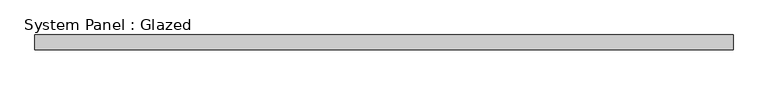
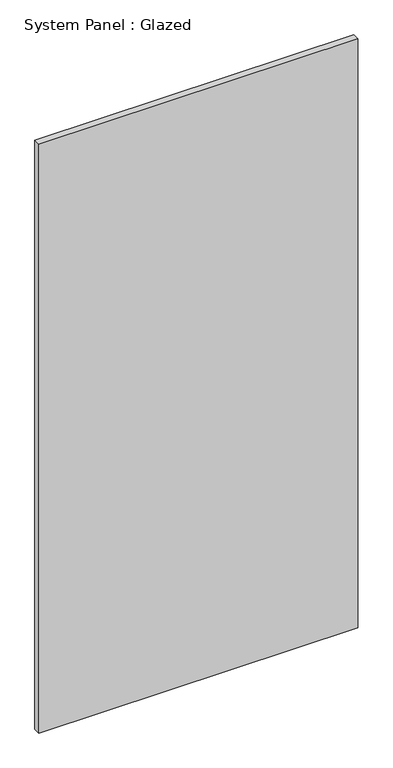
"""IFC4 building model written with IfcOpenShell, lengths in millimetres: plate geometry, System Panel : Glazed."""

import ifcopenshell
import ifcopenshell.guid

model = None  # the IFC model being written
_history = None  # IfcOwnerHistory: only IFC2X3 demands one
_inside = {}  # id of a spatial element -> (the spatial element, [elements in it])
_under = {}  # id of a project, library or spatial element -> (it, [spatial elements below it])
_declared = {}  # id of a project -> (the project, [libraries it declares])
_typed = {}  # id of a type object -> (the type object, [elements of that type])
_made_of = {}  # id of a material, layer set ... -> (it, [elements and type objects made of it])


def new_model(schema):
    """Start an empty IFC model of exactly this schema.

    Asked for "IFC4X3", IfcOpenShell would pick the latest addendum, in which some entities
    have other attributes; the version numbers below select the first issue.
    IFC2X3 requires an IfcOwnerHistory on every rooted entity: one is made here for all.
    """
    global model, _history
    if schema == "IFC4X3":
        model = ifcopenshell.file(schema_version=(4, 3, 0, 0))
    else:
        model = ifcopenshell.file(schema=schema)
    _inside.clear()
    _under.clear()
    _declared.clear()
    _typed.clear()
    _made_of.clear()
    _history = None
    if model.schema == "IFC2X3":
        org = make("IfcOrganization", Name="unknown")
        user = make(
            "IfcPersonAndOrganization",
            ThePerson=make("IfcPerson", FamilyName="unknown"),
            TheOrganization=org,
        )
        app = make(
            "IfcApplication",
            ApplicationDeveloper=org,
            Version="unknown",
            ApplicationFullName="unknown",
            ApplicationIdentifier="unknown",
        )
        _history = make(
            "IfcOwnerHistory",
            OwningUser=user,
            OwningApplication=app,
            ChangeAction="ADDED",
            CreationDate=0,
        )
    return model


def make(cls, **values):
    """One entity of the class cls with the attributes given. An attribute that is None is left unset."""
    return model.create_entity(
        cls, **{name: value for name, value in values.items() if value is not None}
    )


def rooted(cls, **values):
    """An entity with a GlobalId (a new one), such as an element, a storey or a relation."""
    return make(cls, GlobalId=ifcopenshell.guid.new(), OwnerHistory=_history, **values)


def si_unit(unit_type, name, prefix=None):
    """IfcSIUnit, for example si_unit("LENGTHUNIT", "METRE", prefix="MILLI")."""
    return make("IfcSIUnit", UnitType=unit_type, Prefix=prefix, Name=name)


def assignment(units):
    """IfcUnitAssignment: the units of a project."""
    return None if units is None else make("IfcUnitAssignment", Units=units)


def point(xyz):
    """IfcCartesianPoint."""
    return None if xyz is None else make("IfcCartesianPoint", Coordinates=xyz)


def direction(xyz):
    """IfcDirection."""
    return None if xyz is None else make("IfcDirection", DirectionRatios=xyz)


def frame(location, z_axis=None, x_axis=None):
    """IfcAxis2Placement3D, a coordinate frame: its origin and axes. An axis left out is left unset."""
    return make(
        "IfcAxis2Placement3D",
        Location=point(location),
        Axis=direction(z_axis),
        RefDirection=direction(x_axis),
    )


def origin():
    """The frame at (0, 0, 0) with its axes left unset."""
    return frame((0.0, 0.0, 0.0))


def origin_with_axes():
    """The frame at (0, 0, 0) with the z axis (0, 0, 1) and the x axis (1, 0, 0) written out."""
    return frame((0.0, 0.0, 0.0), z_axis=(0.0, 0.0, 1.0), x_axis=(1.0, 0.0, 0.0))


def place(relative_to, where):
    """IfcLocalPlacement: puts the frame where relative to a parent placement (None: the world)."""
    return make(
        "IfcLocalPlacement", PlacementRelTo=relative_to, RelativePlacement=where
    )


def context(
    kind, dimensions, precision=None, world=None, true_north=None, identifier=None
):
    """IfcGeometricRepresentationContext, for example the 3D "Model" context."""
    return make(
        "IfcGeometricRepresentationContext",
        ContextIdentifier=identifier,
        ContextType=kind,
        CoordinateSpaceDimension=dimensions,
        Precision=precision,
        WorldCoordinateSystem=world,
        TrueNorth=true_north,
    )


def project(units=None, contexts=None):
    """IfcProject with its units and contexts."""
    return rooted(
        "IfcProject",
        Name="project",
        RepresentationContexts=contexts,
        UnitsInContext=assignment(units),
    )


def spatial(cls, under=None, at=None, **own):
    """A site, building, storey or space (cls), placed at a placement, below another one or the project."""
    s = rooted(cls, ObjectPlacement=at, **own)
    if under is not None:
        _under.setdefault(under.id(), (under, []))[1].append(s)
    return s


def polyline(points):
    """IfcPolyline through the points."""
    return make("IfcPolyline", Points=[point(p) for p in points])


def outline(outer, holes=None, kind="AREA"):
    """IfcArbitraryClosedProfileDef: a profile drawn as a closed curve; with holes, ...WithVoids."""
    if holes is None:
        return make("IfcArbitraryClosedProfileDef", ProfileType=kind, OuterCurve=outer)
    return make(
        "IfcArbitraryProfileDefWithVoids",
        ProfileType=kind,
        OuterCurve=outer,
        InnerCurves=holes,
    )


def extrude(swept, where, along, depth):
    """IfcExtrudedAreaSolid: the profile swept, set in the frame where, extruded along a direction by depth."""
    return make(
        "IfcExtrudedAreaSolid",
        SweptArea=swept,
        Position=where,
        ExtrudedDirection=direction(along),
        Depth=depth,
    )


def shape(context_of_items, identifier, shape_type, items):
    """IfcShapeRepresentation: the items that make up one representation, for example the "Body"."""
    return make(
        "IfcShapeRepresentation",
        ContextOfItems=context_of_items,
        RepresentationIdentifier=identifier,
        RepresentationType=shape_type,
        Items=items,
    )


def source(mapping_origin, context_of_items, identifier, shape_type, items):
    """IfcRepresentationMap: a shape defined once, which mapped items show again and again."""
    return make(
        "IfcRepresentationMap",
        MappingOrigin=mapping_origin,
        MappedRepresentation=shape(context_of_items, identifier, shape_type, items),
    )


def transform(
    local_origin,
    x_axis=None,
    y_axis=None,
    z_axis=None,
    scale=None,
    scale2=None,
    scale3=None,
    uniform=True,
):
    """IfcCartesianTransformationOperator3D, or its non-uniform kind. x_axis, y_axis, z_axis: its Axis1, 2, 3."""
    if uniform:
        return make(
            "IfcCartesianTransformationOperator3D",
            Axis1=direction(x_axis),
            Axis2=direction(y_axis),
            LocalOrigin=point(local_origin),
            Scale=scale,
            Axis3=direction(z_axis),
        )
    return make(
        "IfcCartesianTransformationOperator3DnonUniform",
        Axis1=direction(x_axis),
        Axis2=direction(y_axis),
        LocalOrigin=point(local_origin),
        Scale=scale,
        Axis3=direction(z_axis),
        Scale2=scale2,
        Scale3=scale3,
    )


def mapped(mapping_source, mapping_target):
    """IfcMappedItem: shows the shape of a source again, moved by a transform."""
    return make(
        "IfcMappedItem", MappingSource=mapping_source, MappingTarget=mapping_target
    )


def made_of(thing, what):
    """Note that an element or type object is made of a material, layer set ...; save() writes the relation."""
    if what is not None:
        _made_of.setdefault(what.id(), (what, []))[1].append(thing)
    return thing


def element(
    cls,
    number,
    at=None,
    inside=None,
    cuts=None,
    type_object=None,
    material=None,
    context=None,
    identifier="Body",
    shape_type=None,
    held_by="IfcProductDefinitionShape",
    body=None,
    shapes=None,
    **own,
):
    """One element of the class cls, such as IfcWall. Its Tag is "e" and its number.

    at: its placement. inside: the storey or other place that contains it. cuts: it is an
    opening in that element (IfcRelVoidsElement). A single representation is given by context,
    identifier, shape_type and body (its items); several are given by shapes. held_by: the class
    of the entity that holds the representations. save() writes the other relations.
    """
    e = rooted(cls, Tag="e%d" % number, ObjectPlacement=at, **own)
    if body is not None:
        shapes = [shape(context, identifier, shape_type, body)]
    if shapes is not None:
        e.Representation = make(held_by, Representations=shapes)
    if inside is not None:
        _inside.setdefault(inside.id(), (inside, []))[1].append(e)
    if cuts is not None:
        rooted(
            "IfcRelVoidsElement", RelatingBuildingElement=cuts, RelatedOpeningElement=e
        )
    if type_object is not None:
        _typed.setdefault(type_object.id(), (type_object, []))[1].append(e)
    return made_of(e, material)


def aggregate(whole, parts):
    """IfcRelAggregates: a whole, such as a stair, and the parts it consists of."""
    return rooted("IfcRelAggregates", RelatingObject=whole, RelatedObjects=parts)


def save(model, path):
    """Write the relations noted so far, then the file.

    IfcRelAggregates (storeys below a building ...), IfcRelContainedInSpatialStructure (elements
    in a storey), IfcRelDefinesByType, IfcRelAssociatesMaterial and IfcRelDeclares: one each for
    every whole, place, type object, material and project.
    """
    for whole, parts in _under.values():
        aggregate(whole, parts)
    for where, things in _inside.values():
        rooted(
            "IfcRelContainedInSpatialStructure",
            RelatedElements=things,
            RelatingStructure=where,
        )
    for kind, things in _typed.values():
        rooted("IfcRelDefinesByType", RelatedObjects=things, RelatingType=kind)
    for what, things in _made_of.values():
        rooted("IfcRelAssociatesMaterial", RelatedObjects=things, RelatingMaterial=what)
    for by, libraries in _declared.values():
        rooted("IfcRelDeclares", RelatingContext=by, RelatedDefinitions=libraries)
    model.write(path)


def system_panel_glazed_4a8d48aa(model_context):
    return source(origin(), model_context, "Body", "SweptSolid", [
        extrude(outline(polyline([(600.075, -44.45), (-600.075, -44.45), (-600.075, -19.05), (600.075, -19.05), (600.075, -44.45)])), origin_with_axes(), (0.0, 0.0, 1.0), 2343.15),
    ])


if __name__ == "__main__":
    model = new_model("IFC4")
    model_context = context("Model", 3, world=origin())
    ifc_project = project(units=[si_unit("LENGTHUNIT", "METRE", prefix="MILLI")], contexts=[model_context])
    site = spatial("IfcSite", under=ifc_project)
    building = spatial("IfcBuilding", under=site)
    placement = place(None, origin())
    system_panel_glazed_shape = system_panel_glazed_4a8d48aa(model_context)
    element("IfcPlate", 1, ObjectType="System Panel : Glazed", at=placement, inside=building, context=model_context, shape_type="MappedRepresentation", body=[
        mapped(system_panel_glazed_shape, transform((0.0, 0.0, 0.0), x_axis=(1.0, 0.0, 0.0), y_axis=(0.0, 1.0, 0.0), z_axis=(0.0, 0.0, 1.0))),
    ])
    save(model, "model.ifc")
